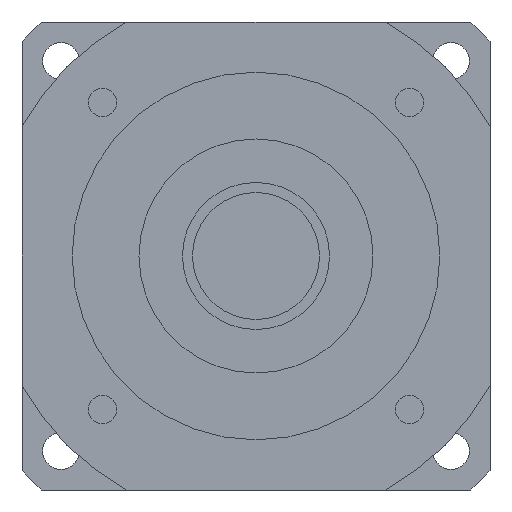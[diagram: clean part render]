
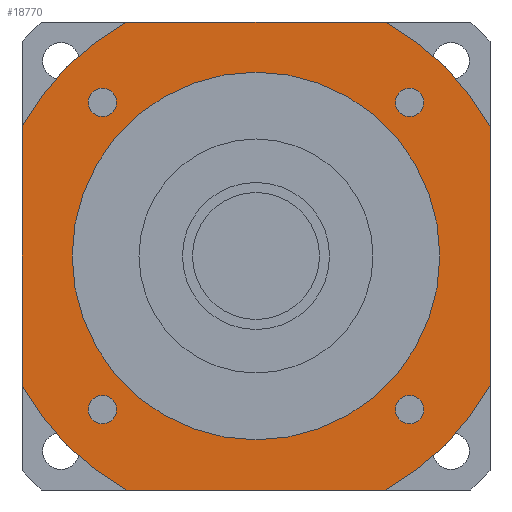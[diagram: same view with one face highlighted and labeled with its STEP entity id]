
A CAD part, left-side view. The second image highlights one B-rep face of the part: STEP entity #18770.
In plain terms, the highlighted planar face has unit normal (-1, 0, 0) as drawn and (0, 0, -1) by its records, which use the part's own axes.
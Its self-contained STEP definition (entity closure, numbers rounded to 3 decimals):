
#15960=CARTESIAN_POINT('',(-38.73,-70.,-84.7));
#15970=VERTEX_POINT('',#15960);
#16000=CARTESIAN_POINT('',(0.,0.,
-84.7));
#16010=DIRECTION('',(0.,0.,-1.));
#16020=DIRECTION('',(1.,0.,0.));
#16030=AXIS2_PLACEMENT_3D('',#16000,#16010,#16020);
#16040=CIRCLE('',#16030,80.);
#16050=CARTESIAN_POINT('',(-70.,-38.73,-84.7));
#16060=VERTEX_POINT('',#16050);
#16070=EDGE_CURVE('',#15970,#16060,#16040,.T.);
#16250=CARTESIAN_POINT('',(-70.,-70.,-84.7));
#16260=DIRECTION('',(0.,1.,0.));
#16270=VECTOR('',#16260,1000.);
#16280=LINE('',#16250,#16270);
#16290=CARTESIAN_POINT('',(-70.,38.73,-84.7));
#16300=VERTEX_POINT('',#16290);
#16310=EDGE_CURVE('',#16060,#16300,#16280,.T.);
#16520=CARTESIAN_POINT('',(70.,-38.73,-84.7));
#16530=VERTEX_POINT('',#16520);
#16560=CARTESIAN_POINT('',(0.,0.,
-84.7));
#16570=DIRECTION('',(0.,0.,-1.));
#16580=DIRECTION('',(1.,0.,0.));
#16590=AXIS2_PLACEMENT_3D('',#16560,#16570,#16580);
#16600=CIRCLE('',#16590,80.);
#16610=CARTESIAN_POINT('',(38.73,-70.,-84.7));
#16620=VERTEX_POINT('',#16610);
#16630=EDGE_CURVE('',#16530,#16620,#16600,.T.);
#16810=CARTESIAN_POINT('',(70.,-70.,-84.7));
#16820=DIRECTION('',(-1.,0.,0.));
#16830=VECTOR('',#16820,1000.);
#16840=LINE('',#16810,#16830);
#16850=EDGE_CURVE('',#16620,#15970,#16840,.T.);
#17010=CARTESIAN_POINT('',(-38.73,70.,-84.7));
#17020=VERTEX_POINT('',#17010);
#17050=CARTESIAN_POINT('',(-70.,70.,-84.7));
#17060=DIRECTION('',(1.,0.,0.));
#17070=VECTOR('',#17060,1000.);
#17080=LINE('',#17050,#17070);
#17090=CARTESIAN_POINT('',(38.73,70.,-84.7));
#17100=VERTEX_POINT('',#17090);
#17110=EDGE_CURVE('',#17020,#17100,#17080,.T.);
#17310=CARTESIAN_POINT('',(0.,0.,
-84.7));
#17320=DIRECTION('',(0.,0.,-1.));
#17330=DIRECTION('',(1.,0.,0.));
#17340=AXIS2_PLACEMENT_3D('',#17310,#17320,#17330);
#17350=CIRCLE('',#17340,80.);
#17360=EDGE_CURVE('',#16300,#17020,#17350,.T.);
#17470=CARTESIAN_POINT('',(0.,0.,
-84.7));
#17480=DIRECTION('',(0.,0.,-1.));
#17490=DIRECTION('',(1.,0.,0.));
#17500=AXIS2_PLACEMENT_3D('',#17470,#17480,#17490);
#17510=CIRCLE('',#17500,80.);
#17520=CARTESIAN_POINT('',(70.,38.73,-84.7));
#17530=VERTEX_POINT('',#17520);
#17540=EDGE_CURVE('',#17100,#17530,#17510,.T.);
#17720=CARTESIAN_POINT('',(70.,70.,-84.7));
#17730=DIRECTION('',(0.,-1.,0.));
#17740=VECTOR('',#17730,1000.);
#17750=LINE('',#17720,#17740);
#17760=EDGE_CURVE('',#17530,#16530,#17750,.T.);
#17830=CARTESIAN_POINT('',(70.,70.,-84.7));
#17840=DIRECTION('',(0.,0.,-1.));
#17850=DIRECTION('',(1.,0.,0.));
#17860=AXIS2_PLACEMENT_3D('',#17830,#17840,#17850);
#17870=PLANE('',#17860);
#17880=CARTESIAN_POINT('',(-45.962,-45.962,-84.7));
#17890=DIRECTION('',(0.,0.,-1.));
#17900=DIRECTION('',(0.,-1.,0.));
#17910=AXIS2_PLACEMENT_3D('',#17880,#17890,#17900);
#17920=CIRCLE('',#17910,4.25);
#17930=CARTESIAN_POINT('',(-45.962,-50.212,-84.7));
#17940=VERTEX_POINT('',#17930);
#17950=CARTESIAN_POINT('',(-45.962,-41.712,-84.7));
#17960=VERTEX_POINT('',#17950);
#17970=EDGE_CURVE('',#17940,#17960,#17920,.T.);
#17980=ORIENTED_EDGE('',*,*,#17970,.F.);
#17990=EDGE_CURVE('',#17960,#17940,#17920,.T.);
#18000=ORIENTED_EDGE('',*,*,#17990,.F.);
#18010=EDGE_LOOP('',(#18000,#17980));
#18020=FACE_BOUND('',#18010,.T.);
#18030=CARTESIAN_POINT('',(-45.962,45.962,-84.7));
#18040=DIRECTION('',(0.,0.,-1.));
#18050=DIRECTION('',(-1.,0.,0.));
#18060=AXIS2_PLACEMENT_3D('',#18030,#18040,#18050);
#18070=CIRCLE('',#18060,4.25);
#18080=CARTESIAN_POINT('',(-50.212,45.962,-84.7));
#18090=VERTEX_POINT('',#18080);
#18100=CARTESIAN_POINT('',(-41.712,45.962,-84.7));
#18110=VERTEX_POINT('',#18100);
#18120=EDGE_CURVE('',#18090,#18110,#18070,.T.);
#18130=ORIENTED_EDGE('',*,*,#18120,.F.);
#18140=EDGE_CURVE('',#18110,#18090,#18070,.T.);
#18150=ORIENTED_EDGE('',*,*,#18140,.F.);
#18160=EDGE_LOOP('',(#18150,#18130));
#18170=FACE_BOUND('',#18160,.T.);
#18180=CARTESIAN_POINT('',(45.962,45.962,-84.7));
#18190=DIRECTION('',(0.,0.,-1.));
#18200=DIRECTION('',(0.,1.,0.));
#18210=AXIS2_PLACEMENT_3D('',#18180,#18190,#18200);
#18220=CIRCLE('',#18210,4.25);
#18230=CARTESIAN_POINT('',(45.962,50.212,-84.7));
#18240=VERTEX_POINT('',#18230);
#18250=CARTESIAN_POINT('',(45.962,41.712,-84.7));
#18260=VERTEX_POINT('',#18250);
#18270=EDGE_CURVE('',#18240,#18260,#18220,.T.);
#18280=ORIENTED_EDGE('',*,*,#18270,.F.);
#18290=EDGE_CURVE('',#18260,#18240,#18220,.T.);
#18300=ORIENTED_EDGE('',*,*,#18290,.F.);
#18310=EDGE_LOOP('',(#18300,#18280));
#18320=FACE_BOUND('',#18310,.T.);
#18330=CARTESIAN_POINT('',(0.,0.,
-84.7));
#18340=DIRECTION('',(0.,0.,1.));
#18350=DIRECTION('',(0.,1.,0.));
#18360=AXIS2_PLACEMENT_3D('',#18330,#18340,#18350);
#18370=CIRCLE('',#18360,55.);
#18380=CARTESIAN_POINT('',(-55.,0.,-84.7));
#18390=VERTEX_POINT('',#18380);
#18400=CARTESIAN_POINT('',(55.,0.,-84.7));
#18410=VERTEX_POINT('',#18400);
#18420=EDGE_CURVE('',#18390,#18410,#18370,.T.);
#18430=ORIENTED_EDGE('',*,*,#18420,.T.);
#18440=CARTESIAN_POINT('',(0.,55.,-84.7));
#18450=VERTEX_POINT('',#18440);
#18460=EDGE_CURVE('',#18450,#18390,#18370,.T.);
#18470=ORIENTED_EDGE('',*,*,#18460,.T.);
#18480=EDGE_CURVE('',#18410,#18450,#18370,.T.);
#18490=ORIENTED_EDGE('',*,*,#18480,.T.);
#18500=EDGE_LOOP('',(#18490,#18470,#18430));
#18510=FACE_BOUND('',#18500,.T.);
#18520=ORIENTED_EDGE('',*,*,#17110,.T.);
#18530=ORIENTED_EDGE('',*,*,#17360,.T.);
#18540=ORIENTED_EDGE('',*,*,#16310,.T.);
#18550=ORIENTED_EDGE('',*,*,#16070,.T.);
#18560=ORIENTED_EDGE('',*,*,#16850,.T.);
#18570=ORIENTED_EDGE('',*,*,#16630,.T.);
#18580=ORIENTED_EDGE('',*,*,#17760,.T.);
#18590=ORIENTED_EDGE('',*,*,#17540,.T.);
#18600=EDGE_LOOP('',(#18590,#18580,#18570,#18560,#18550,#18540,#18530,
#18520));
#18610=FACE_OUTER_BOUND('',#18600,.T.);
#18620=CARTESIAN_POINT('',(45.962,-45.962,-84.7));
#18630=DIRECTION('',(0.,0.,-1.));
#18640=DIRECTION('',(1.,0.,0.));
#18650=AXIS2_PLACEMENT_3D('',#18620,#18630,#18640);
#18660=CIRCLE('',#18650,4.25);
#18670=CARTESIAN_POINT('',(50.212,-45.962,-84.7));
#18680=VERTEX_POINT('',#18670);
#18690=CARTESIAN_POINT('',(41.712,-45.962,-84.7));
#18700=VERTEX_POINT('',#18690);
#18710=EDGE_CURVE('',#18680,#18700,#18660,.T.);
#18720=ORIENTED_EDGE('',*,*,#18710,.F.);
#18730=EDGE_CURVE('',#18700,#18680,#18660,.T.);
#18740=ORIENTED_EDGE('',*,*,#18730,.F.);
#18750=EDGE_LOOP('',(#18740,#18720));
#18760=FACE_BOUND('',#18750,.T.);
#18770=ADVANCED_FACE('',(#18020,#18170,#18320,#18510,#18610,#18760),
#17870,.T.);
